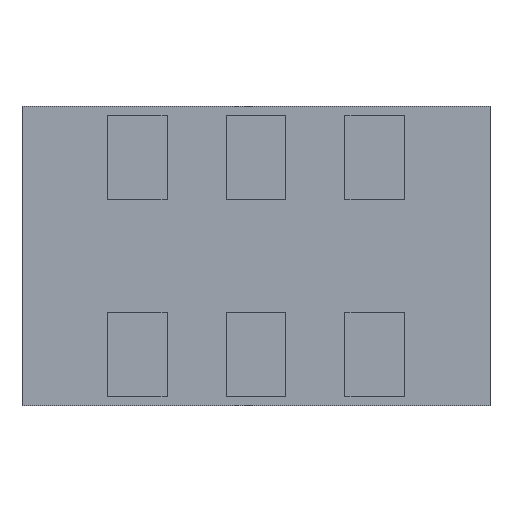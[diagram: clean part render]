
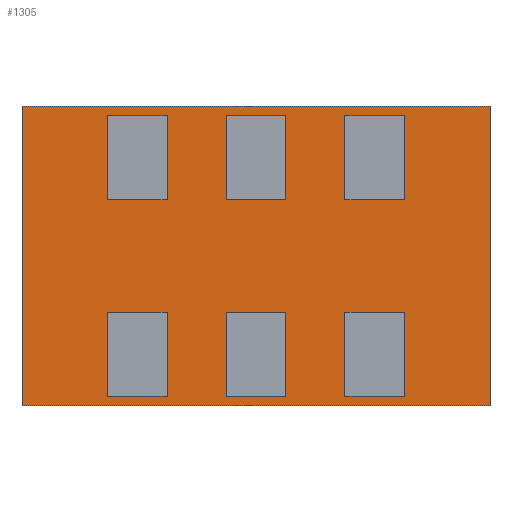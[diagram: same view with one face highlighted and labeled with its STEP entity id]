
A CAD part, front view. The second image highlights one B-rep face of the part: STEP entity #1305.
In plain terms, the highlighted planar face has unit normal (0, -1, 0).
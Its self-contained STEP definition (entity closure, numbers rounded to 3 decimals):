
#1148 = CARTESIAN_POINT ( 'NONE',  ( -2.5, 0.05, -1.6 ) ) ;
#1149 = VERTEX_POINT ( 'NONE', #1148 ) ;
#1150 = CARTESIAN_POINT ( 'NONE',  ( -2.5, 0.05, 1.6 ) ) ;
#1151 = VERTEX_POINT ( 'NONE', #1150 ) ;
#1152 = CARTESIAN_POINT ( 'NONE',  ( -2.5, 0.05, 1.6 ) ) ;
#1153 = DIRECTION ( 'NONE',  ( 0., 0., 1. ) ) ;
#1154 = VECTOR ( 'NONE', #1153, 1000. ) ;
#1155 = LINE ( 'NONE', #1152, #1154 ) ;
#1156 = EDGE_CURVE ( 'NONE', #1149, #1151, #1155, .T. ) ;
#1188 = CARTESIAN_POINT ( 'NONE',  ( 2.5, 0.05, 1.6 ) ) ;
#1189 = VERTEX_POINT ( 'NONE', #1188 ) ;
#1190 = CARTESIAN_POINT ( 'NONE',  ( 2.5, 0.05, 1.6 ) ) ;
#1191 = DIRECTION ( 'NONE',  ( 1., 0., 0. ) ) ;
#1192 = VECTOR ( 'NONE', #1191, 1000. ) ;
#1193 = LINE ( 'NONE', #1190, #1192 ) ;
#1194 = EDGE_CURVE ( 'NONE', #1151, #1189, #1193, .T. ) ;
#1219 = CARTESIAN_POINT ( 'NONE',  ( 2.5, 0.05, -1.6 ) ) ;
#1220 = VERTEX_POINT ( 'NONE', #1219 ) ;
#1221 = CARTESIAN_POINT ( 'NONE',  ( 2.5, 0.05, 1.6 ) ) ;
#1222 = DIRECTION ( 'NONE',  ( 0., 0., -1. ) ) ;
#1223 = VECTOR ( 'NONE', #1222, 1000. ) ;
#1224 = LINE ( 'NONE', #1221, #1223 ) ;
#1225 = EDGE_CURVE ( 'NONE', #1189, #1220, #1224, .T. ) ;
#1250 = CARTESIAN_POINT ( 'NONE',  ( 2.5, 0.05, -1.6 ) ) ;
#1251 = DIRECTION ( 'NONE',  ( -1., 0., 0. ) ) ;
#1252 = VECTOR ( 'NONE', #1251, 1000. ) ;
#1253 = LINE ( 'NONE', #1250, #1252 ) ;
#1254 = EDGE_CURVE ( 'NONE', #1220, #1149, #1253, .T. ) ;
#1294 = ORIENTED_EDGE ( 'NONE', *, *, #1156, .F. ) ;
#1295 = ORIENTED_EDGE ( 'NONE', *, *, #1254, .F. ) ;
#1296 = ORIENTED_EDGE ( 'NONE', *, *, #1225, .F. ) ;
#1297 = ORIENTED_EDGE ( 'NONE', *, *, #1194, .F. ) ;
#1298 = EDGE_LOOP ( 'NONE', ( #1294, #1295, #1296, #1297 ) ) ;
#1299 = FACE_OUTER_BOUND ( 'NONE', #1298, .T. ) ;
#1300 = CARTESIAN_POINT ( 'NONE',  ( 0., 0.05, 0. ) ) ;
#1301 = DIRECTION ( 'NONE',  ( 0., 1., 0. ) ) ;
#1302 = DIRECTION ( 'NONE',  ( 0., 0., 1. ) ) ;
#1303 = AXIS2_PLACEMENT_3D ( 'NONE', #1300, #1301, #1302 ) ;
#1304 = PLANE ( 'NONE', #1303 ) ;
#1305 = ADVANCED_FACE ( 'NONE', ( #1299 ), #1304, .F. ) ;
